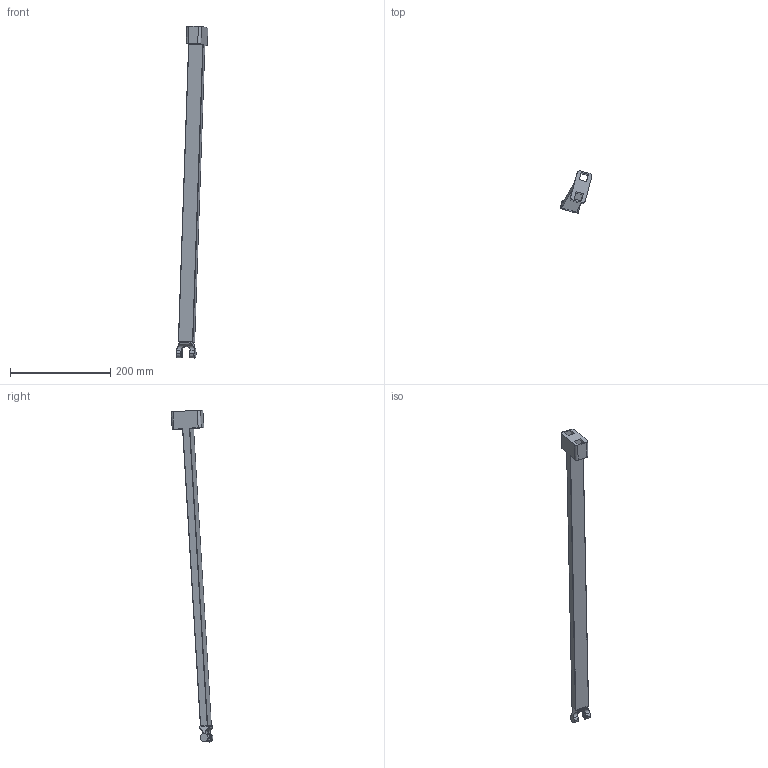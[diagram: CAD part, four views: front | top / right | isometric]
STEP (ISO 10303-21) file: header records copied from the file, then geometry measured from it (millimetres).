
FILE_DESCRIPTION (( 'STEP AP214' ), '1' );
FILE_NAME ('IRB365_1.5-1300_OmniCore_rev00_TELESCOPIC_UNIT_2_2_CAD.step', '2025-09-09T11:52:35', ( '' ), ( '' ), 'SwSTEP 2.0', 'SolidWorks 2024', '' );
FILE_SCHEMA (( 'AUTOMOTIVE_DESIGN' ));
Length unit declared in the file: millimetre
Products named in the file (1): IRB365_1.5-1300_OmniCore_rev00_TELESCOPIC_UNIT_2_2_CAD
Bounding box: 63.57 x 83.31 x 663.94 mm (x, y, z)
Volume: 322676.3 mm3; surface area: 69317.7 mm2
Topology: 1 solids, 1 shells, 62 faces, 170 edges, 112 vertices
Faces by surface type: plane 32, cylinder 30
Entity records: 2822 total; most frequent: CARTESIAN_POINT 534, ORIENTED_EDGE 340, DIRECTION 324, EDGE_CURVE 170, VERTEX_POINT 112, AXIS2_PLACEMENT_3D 111, VECTOR 102, LINE 102
